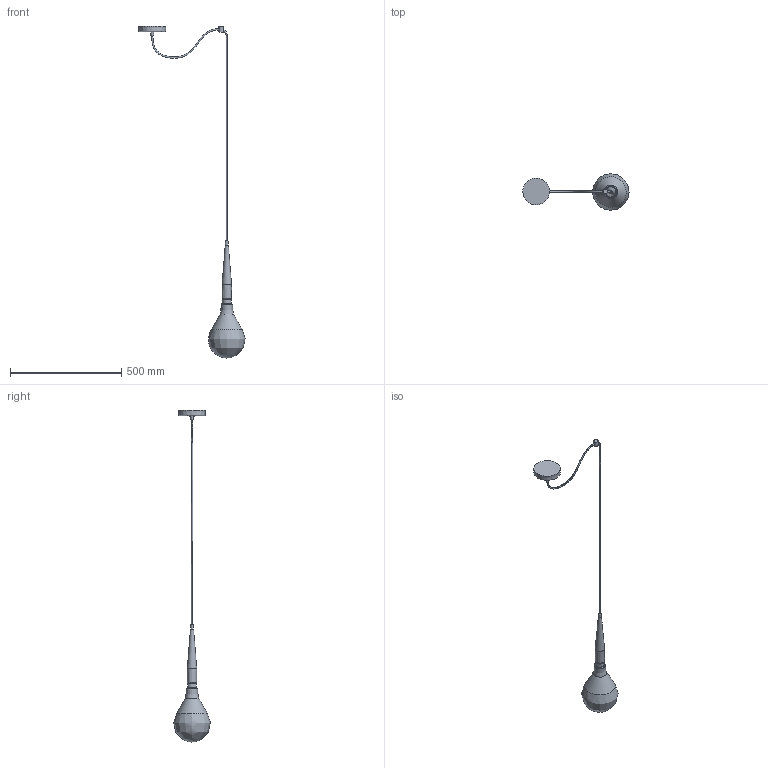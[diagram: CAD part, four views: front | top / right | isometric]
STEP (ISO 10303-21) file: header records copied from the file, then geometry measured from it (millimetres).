
FILE_DESCRIPTION(/* description */ (''),/* implementation_level */ '2;1');
FILE_NAME(/* name */ '1600_singola',/* time_stamp */ '2021-03-15T11:41:06+01:00',/* author */ (''),/* organization */ (''),/* preprocessor_version */ 'ST-DEVELOPER v16.5',/* originating_system */ '',/* authorisation */ '');
FILE_SCHEMA (('CONFIG_CONTROL_DESIGN'));
Length unit declared in the file: millimetre
Products named in the file (1): Document
Bounding box: 477.67 x 164.85 x 1492.56 mm (x, y, z)
Volume: 3270642.5 mm3; surface area: 192160.3 mm2
Topology: 7 solids, 11 shells, 27 faces, 45 edges, 29 vertices
Faces by surface type: bspline 14, plane 11, cylinder 2
Full cylindrical faces by diameter (mm): 6 x1, 40 x1
Entity records: 2294 total; most frequent: CARTESIAN_POINT 1874, ORIENTED_EDGE 88, EDGE_CURVE 47, VERTEX_POINT 36, ADVANCED_FACE 27, FACE_OUTER_BOUND 27, EDGE_LOOP 27, DIRECTION 19
